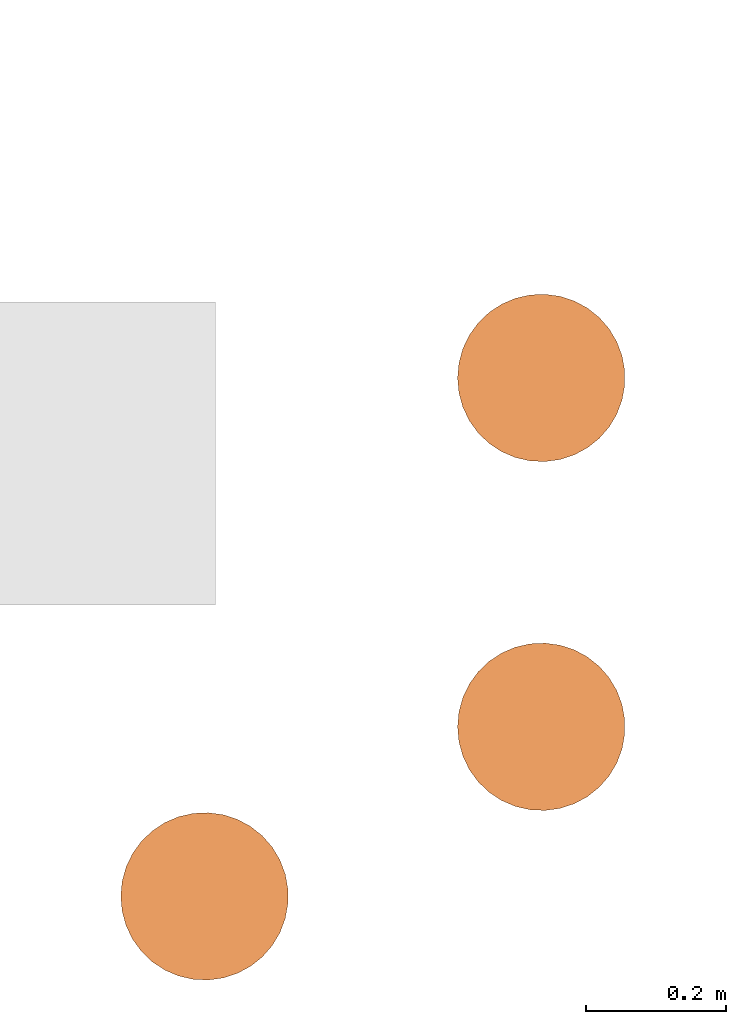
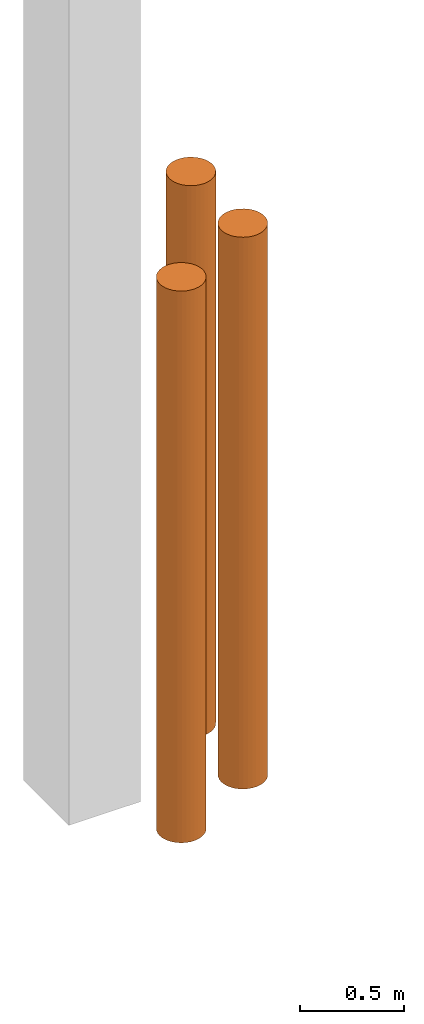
# One storey, part 2 of 3: 1 proxy.
"""IFC2X3 building model written with IfcOpenShell, lengths in millimetres."""

from ifc_helpers import new_model, entity, si_unit, converted_unit, derived_unit, direction, frame, origin, origin_2d_with_axis, place, context, subcontext, project, spatial, circle, extrude, source, transform, mapped, material, type_object, type_shapes, element, save


model = new_model("IFC2X3")

# Units and contexts
model_context = context("Model", 3, precision=0.01, world=origin(), true_north=direction((4.05803320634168e-15, -1.0)))
body_context = subcontext(model_context, "Body", "Model", "MODEL_VIEW")
ifc_project = project(units=[si_unit("LENGTHUNIT", "METRE", prefix="MILLI"), si_unit("AREAUNIT", "SQUARE_METRE"), si_unit("VOLUMEUNIT", "CUBIC_METRE"), converted_unit("PLANEANGLEUNIT", "DEGREE", entity("IfcRatioMeasure", 0.0174532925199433), si_unit("PLANEANGLEUNIT", "RADIAN"), dimensions=[0, 0, 0, 0, 0, 0, 0]), si_unit("MASSUNIT", "GRAM", prefix="KILO"), derived_unit("MASSDENSITYUNIT", [(si_unit("MASSUNIT", "GRAM", prefix="KILO"), 1), (si_unit("LENGTHUNIT", "METRE"), -3)]), si_unit("TIMEUNIT", "SECOND"), si_unit("FREQUENCYUNIT", "HERTZ"), si_unit("THERMODYNAMICTEMPERATUREUNIT", "DEGREE_CELSIUS"), derived_unit("THERMALTRANSMITTANCEUNIT", [(si_unit("MASSUNIT", "GRAM", prefix="KILO"), 1), (si_unit("THERMODYNAMICTEMPERATUREUNIT", "KELVIN"), -1), (si_unit("TIMEUNIT", "SECOND"), -3)]), derived_unit("VOLUMETRICFLOWRATEUNIT", [(si_unit("LENGTHUNIT", "METRE"), 3), (si_unit("TIMEUNIT", "SECOND"), -1)]), si_unit("ELECTRICCURRENTUNIT", "AMPERE"), si_unit("ELECTRICVOLTAGEUNIT", "VOLT"), si_unit("POWERUNIT", "WATT"), si_unit("FORCEUNIT", "NEWTON", prefix="KILO"), si_unit("ILLUMINANCEUNIT", "LUX"), si_unit("LUMINOUSFLUXUNIT", "LUMEN"), si_unit("LUMINOUSINTENSITYUNIT", "CANDELA"), derived_unit("USERDEFINED", [(si_unit("MASSUNIT", "GRAM", prefix="KILO"), -1), (si_unit("LENGTHUNIT", "METRE"), -2), (si_unit("TIMEUNIT", "SECOND"), 3), (si_unit("LUMINOUSFLUXUNIT", "LUMEN"), 1)]), derived_unit("LINEARVELOCITYUNIT", [(si_unit("LENGTHUNIT", "METRE"), 1), (si_unit("TIMEUNIT", "SECOND"), -1)]), si_unit("PRESSUREUNIT", "PASCAL"), derived_unit("USERDEFINED", [(si_unit("LENGTHUNIT", "METRE"), -2), (si_unit("MASSUNIT", "GRAM", prefix="KILO"), 1), (si_unit("TIMEUNIT", "SECOND"), -2)])], contexts=[model_context])

# Site, building, storey
site_placement = place(None, frame((927466.849349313, 583801.882853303, 0.0), z_axis=(0.0, 0.0, 1.0), x_axis=(-1.0, 0.0, 0.0)))
site = spatial("IfcSite", under=ifc_project, at=site_placement, Name="Surface", CompositionType="ELEMENT")
building_placement = place(site_placement, origin())
building = spatial("IfcBuilding", under=site, at=building_placement, CompositionType="ELEMENT")
storey_placement = place(building_placement, origin())
storey = spatial("IfcBuildingStorey", under=building, at=storey_placement, Name="0. Base level", CompositionType="ELEMENT", Elevation=0.0)

# Proxy
ifc_material = material(Name="bollards")
building_element_proxy_type = type_object("IfcBuildingElementProxyType", Name="Generic Models 44", PredefinedType="NOTDEFINED", material=ifc_material)
shared_shape = source(origin(), body_context, "Body", "SweptSolid", [
    extrude(circle(Radius=120.000000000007, at=origin_2d_with_axis()), frame((-153765.792458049, 36565.0854127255, 42695.9057084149)), (0.0, 0.0, 1.0), 3242.6576293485),
    extrude(circle(Radius=120.000000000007, at=origin_2d_with_axis()), frame((-153283.098170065, 37308.0995334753, 42695.9057084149)), (0.0, 0.0, 1.0), 3242.6576293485),
    extrude(circle(Radius=120.000000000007, at=origin_2d_with_axis()), frame((-153765.792458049, 37065.0854127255, 42695.9057084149)), (0.0, 0.0, 1.0), 3242.6576293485),
])
type_shapes(building_element_proxy_type, [shared_shape])
proxy_placement = place(storey_placement, origin())
element("IfcBuildingElementProxy", 1, at=proxy_placement, inside=storey, type_object=building_element_proxy_type, material=ifc_material, Name="Generic Models 44:Generic Models 44", ObjectType="Generic Models 44", context=body_context, shape_type="MappedRepresentation", body=[
    mapped(shared_shape, transform((0.0, 0.0, 0.0), scale=1.0)),
])

save(model, "model.ifc")
